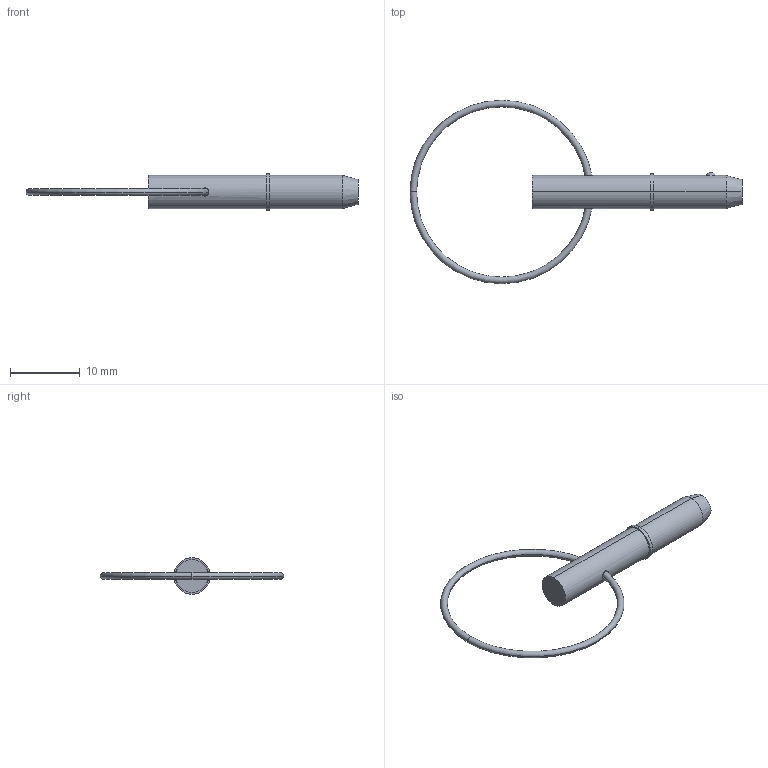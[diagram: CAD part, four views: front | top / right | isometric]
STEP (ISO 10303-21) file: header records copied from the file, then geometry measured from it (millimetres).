
FILE_DESCRIPTION (( 'STEP AP203' ), '1' );
FILE_NAME ('33014.W1803.step', '2024-11-04T08:21:53', ( '' ), ( '' ), 'SwSTEP 2.0', 'SolidWorks 2019', '' );
FILE_SCHEMA (( 'CONFIG_CONTROL_DESIGN' ));
Length unit declared in the file: millimetre
Products named in the file (3): 33014.W1803; Part2_33014.W1803; Part1_33014.W1803
Assembly tree (2 placements, depth 2):
  33014.W1803
    Part1_33014.W1803
    Part2_33014.W1803
Bounding box: 47.68 x 26.35 x 5.24 mm (x, y, z)
Volume: 581.1 mm3; surface area: 738.4 mm2
Topology: 2 solids, 2 shells, 22 faces, 43 edges, 26 vertices
Faces by surface type: torus 8, cylinder 6, plane 4, sphere 2, cone 2
Entity records: 939 total; most frequent: CARTESIAN_POINT 162, DIRECTION 120, ORIENTED_EDGE 86, AXIS2_PLACEMENT_3D 56, EDGE_CURVE 43, CIRCLE 29, EDGE_LOOP 27, PERSON_AND_ORGANIZATION 26
